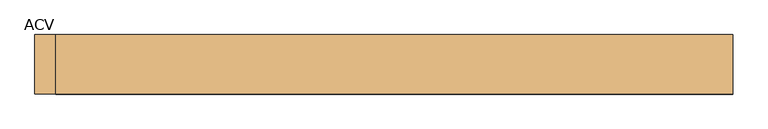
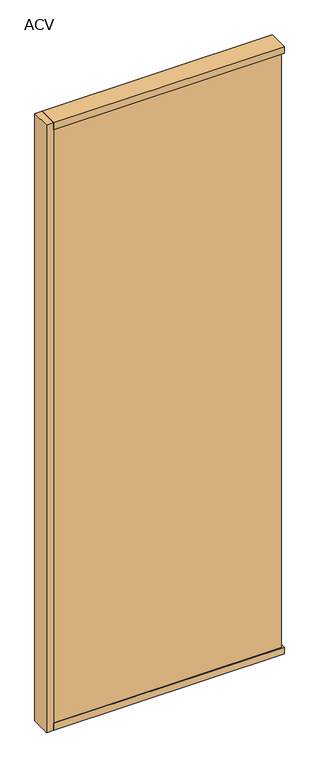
"""IFC4 building model written with IfcOpenShell, lengths in millimetres: door geometry, Mobiliário_Mobiliário de Escritório_Painel Cego - ACV (Inicial e Final)_Marelli : ACV."""

from ifc_helpers import new_model, si_unit, frame, origin, origin_with_axes, place, context, project, spatial, polyline, outline, extrude, source, transform, mapped, element, save


def acv_4e578eec(model_context):
    return source(origin(), model_context, "Body", "SweptSolid", [
        extrude(outline(polyline([(500.0, 42.5), (500.0, -42.5), (-470.0, -42.5), (-470.0, 42.5), (500.0, 42.5)])), origin_with_axes(), (0.0, 0.0, 1.0), 30.0),
        extrude(outline(polyline([(500.0, 42.5), (500.0, -42.5), (-470.0, -42.5), (-470.0, 42.5), (500.0, 42.5)])), frame((0.0, 0.0, 2670.0), z_axis=(0.0, 0.0, 1.0), x_axis=(1.0, 0.0, 0.0)), (0.0, 0.0, 1.0), 30.0),
        extrude(outline(polyline([(-500.0, -42.5), (-500.0, 42.5), (-470.0, 42.5), (-470.0, -42.5), (-500.0, -42.5)])), origin_with_axes(), (0.0, 0.0, 1.0), 2700.0),
        extrude(outline(polyline([(500.0, -21.5), (490.0, -21.5), (490.0, 21.5), (500.0, 21.5), (500.0, -21.5)])), origin_with_axes(), (0.0, 0.0, 1.0), 2670.0),
        extrude(outline(polyline([(490.0, 39.5), (490.0, 21.5), (-470.0, 21.5), (-470.0, 39.5), (490.0, 39.5)])), frame((0.0, 0.0, 30.0), z_axis=(0.0, 0.0, 1.0), x_axis=(1.0, 0.0, 0.0)), (0.0, 0.0, 1.0), 2640.0),
        extrude(outline(polyline([(490.0, -39.5), (-470.0, -39.5), (-470.0, -21.5), (490.0, -21.5), (490.0, -39.5)])), frame((0.0, 0.0, 30.0), z_axis=(0.0, 0.0, 1.0), x_axis=(1.0, 0.0, 0.0)), (0.0, 0.0, 1.0), 2640.0),
    ])


if __name__ == "__main__":
    model = new_model("IFC4")
    model_context = context("Model", 3, world=origin())
    ifc_project = project(units=[si_unit("LENGTHUNIT", "METRE", prefix="MILLI")], contexts=[model_context])
    site = spatial("IfcSite", under=ifc_project)
    building = spatial("IfcBuilding", under=site)
    placement = place(None, origin())
    acv_shape = acv_4e578eec(model_context)
    element("IfcDoor", 1, ObjectType="Mobiliário_Mobiliário de Escritório_Painel Cego - ACV (Inicial e Final)_Marelli : ACV", at=placement, inside=building, context=model_context, shape_type="MappedRepresentation", body=[
        mapped(acv_shape, transform((0.0, 0.0, 0.0), x_axis=(1.0, 0.0, 0.0), y_axis=(0.0, 1.0, 0.0), z_axis=(0.0, 0.0, 1.0))),
    ])
    save(model, "model.ifc")
